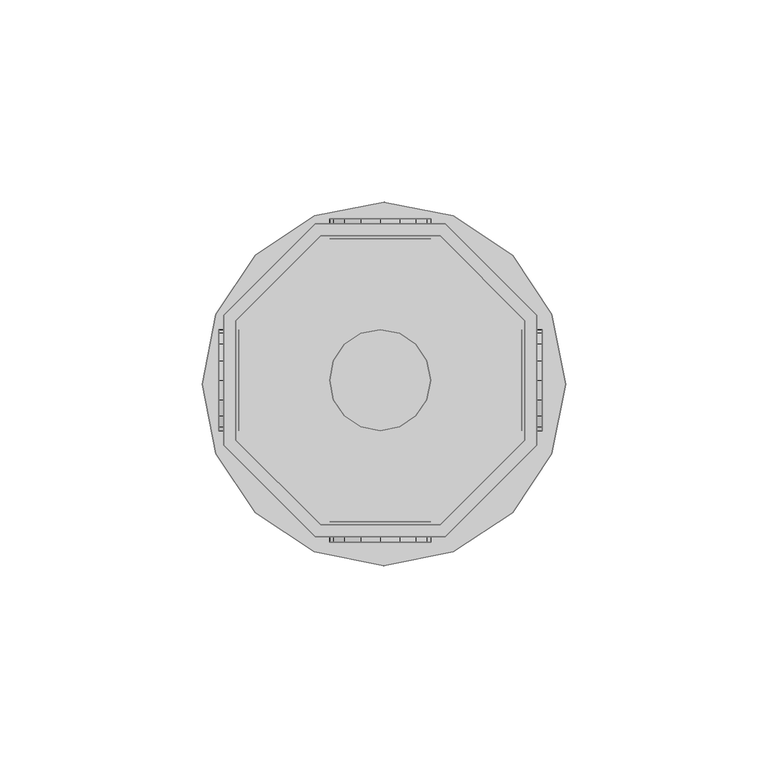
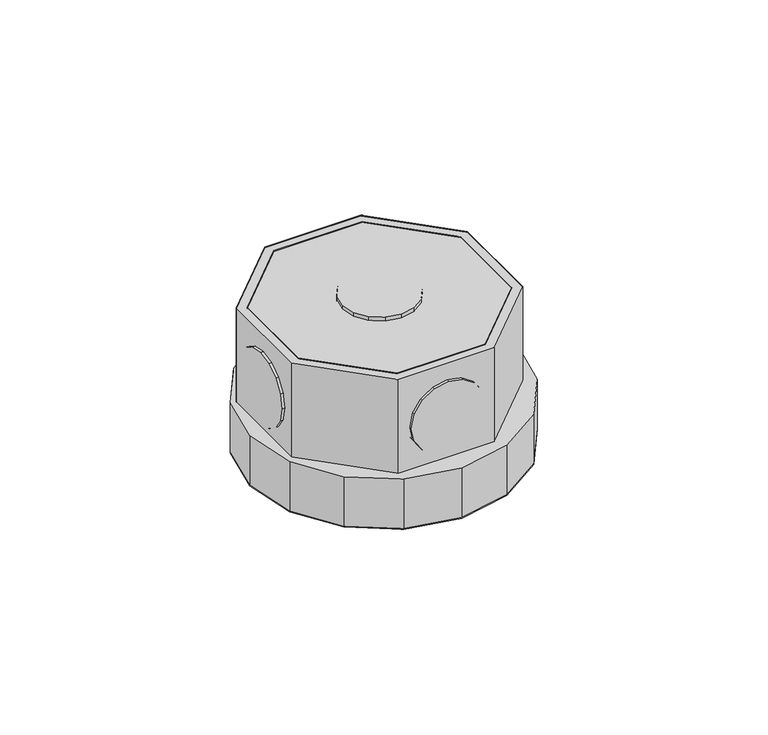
"""IFC4 building model written with IfcOpenShell, lengths in millimetres: light fixture geometry,  213226 :  213226."""

from ifc_helpers import new_model, si_unit, origin, place, context, project, spatial, triangles, source, transform, mapped, element, save


def light_fixture_38f33e88(model_context):
    return source(origin(), model_context, "Body", "Tessellation", [
        triangles([(24957.4998779, 18755.5005341, 2924.5999741), (24927.8993591, 18755.5005341, 2975.400071), (24927.8993591, 18755.5005341, 2924.5999741), (24957.4998779, 18755.5005341, 2975.400071), (24958.6998047, 18681.0004303, 2924.5999741), (24926.5994385, 18681.0004303, 2975.400071), (24926.5994385, 18681.0004303, 2924.5999741), (24958.6998047, 18681.0004303, 2975.400071), (24906.9006409, 18734.4994904, 2975.400071), (24906.9006409, 18734.4994904, 2924.5999741), (24981.4007446, 18703.7002075, 2924.5999741), (24981.4007446, 18703.7002075, 2975.400071), (24906.9006409, 18704.9001343, 2975.400071), (24906.9006409, 18704.9001343, 2924.5999741), (24981.4007446, 18735.8005737, 2924.5999741), (24981.4007446, 18735.8005737, 2975.400071), (24927.8993591, 18684.0002472, 2975.400071), (24927.8993591, 18684.0002472, 2924.5999741), (24958.6998047, 18758.500351, 2924.5999741), (24958.6998047, 18758.500351, 2975.400071), (24957.4998779, 18684.0002472, 2924.5999741), (24957.4998779, 18684.0002472, 2975.400071), (24926.5994385, 18758.500351, 2975.400071), (24926.5994385, 18758.500351, 2924.5999741), (24978.4009277, 18704.9001343, 2924.5999741), (24978.4009277, 18704.9001343, 2975.400071), (24903.900824, 18735.8005737, 2975.400071), (24903.900824, 18735.8005737, 2924.5999741), (24903.900824, 18703.7002075, 2975.400071), (24978.4009277, 18734.4994904, 2975.400071), (24978.4009277, 18734.4994904, 2924.5999741), (24903.900824, 18703.7002075, 2924.5999741), (24906.9006409, 18704.9001343, 2972.3999634), (24927.8993591, 18684.0002472, 2972.3999634), (24957.4998779, 18684.0002472, 2972.3999634), (24978.4009277, 18704.9001343, 2972.3999634), (24978.4009277, 18734.4994904, 2972.3999634), (24957.4998779, 18755.5005341, 2972.3999634), (24927.8993591, 18755.5005341, 2972.3999634), (24906.9006409, 18734.4994904, 2972.3999634), (24903.900824, 18735.8005737, 2942.4000504), (24926.5994385, 18758.500351, 2942.4000504), (24958.6998047, 18758.500351, 2942.4000504), (24981.4007446, 18735.8005737, 2942.4000504), (24981.4007446, 18703.7002075, 2942.4000504), (24958.6998047, 18681.0004303, 2942.4000504), (24926.5994385, 18681.0004303, 2942.4000504), (24903.900824, 18703.7002075, 2942.4000504), (24926.2994568, 18677.2994934, 2942.4000504), (24902.0009399, 18701.6003357, 2942.4000504), (24911.7003479, 18687.0000641, 2942.4000504), (24898.6011475, 18718.8004486, 2942.4000504), (24902.0009399, 18736.1005554, 2942.4000504), (24911.7003479, 18750.6996643, 2942.4000504), (24926.2994568, 18760.400235, 2942.4000504), (24943.6007263, 18763.8000275, 2942.4000504), (24960.7996765, 18760.400235, 2942.4000504), (24985.1005188, 18736.1005554, 2942.4000504), (24975.4011108, 18750.6996643, 2942.4000504), (24943.6007263, 18673.799707, 2942.4000504), (24960.7996765, 18677.2994934, 2942.4000504), (24975.4011108, 18687.0000641, 2942.4000504), (24985.1005188, 18701.6003357, 2942.4000504), (24988.6003052, 18718.8004486, 2942.4000504), (24902.0009399, 18701.6003357, 2924.5999741), (24926.2994568, 18677.2994934, 2924.5999741), (24911.7003479, 18687.0000641, 2924.5999741), (24898.6011475, 18718.8004486, 2924.5999741), (24902.0009399, 18736.1005554, 2924.5999741), (24911.7003479, 18750.6996643, 2924.5999741), (24926.2994568, 18760.400235, 2924.5999741), (24943.6007263, 18763.8000275, 2924.5999741), (24960.7996765, 18760.400235, 2924.5999741), (24985.1005188, 18736.1005554, 2924.5999741), (24975.4011108, 18750.6996643, 2924.5999741), (24943.6007263, 18673.799707, 2924.5999741), (24960.7996765, 18677.2994934, 2924.5999741), (24975.4011108, 18687.0000641, 2924.5999741), (24985.1005188, 18701.6003357, 2924.5999741), (24988.6003052, 18718.8004486, 2924.5999741), (24931.0991638, 18759.7002777, 2952.6000092), (24937.9010742, 18759.7002777, 2945.9001274), (24933.798999, 18759.7002777, 2948.5999626), (24930.1992188, 18759.7002777, 2957.4000069), (24942.7007813, 18759.7002777, 2944.8998978), (24931.0991638, 18759.7002777, 2962.2000046), (24947.5004883, 18759.7002777, 2945.9001274), (24933.798999, 18759.7002777, 2966.2000511), (24951.5002441, 18759.7002777, 2948.5999626), (24937.9010742, 18759.7002777, 2968.8998863), (24954.2000793, 18759.7002777, 2952.6000092), (24942.7007813, 18759.7002777, 2969.900116), (24955.2000183, 18759.7002777, 2957.4000069), (24947.5004883, 18759.7002777, 2968.8998863), (24954.2000793, 18759.7002777, 2962.2000046), (24951.5002441, 18759.7002777, 2966.2000511), (24937.9010742, 18754.6994202, 2945.9001274), (24931.0991638, 18754.6994202, 2952.6000092), (24933.798999, 18754.6994202, 2948.5999626), (24942.7007813, 18754.6994202, 2944.8998978), (24930.1992188, 18754.6994202, 2957.4000069), (24947.5004883, 18754.6994202, 2945.9001274), (24931.0991638, 18754.6994202, 2962.2000046), (24951.5002441, 18754.6994202, 2948.5999626), (24933.798999, 18754.6994202, 2966.2000511), (24937.9010742, 18754.6994202, 2968.8998863), (24954.2000793, 18754.6994202, 2952.6000092), (24942.7007813, 18754.6994202, 2969.900116), (24955.2000183, 18754.6994202, 2957.4000069), (24947.5004883, 18754.6994202, 2968.8998863), (24954.2000793, 18754.6994202, 2962.2000046), (24951.5002441, 18754.6994202, 2966.2000511), (24931.0991638, 18684.7002045, 2952.6000092), (24937.9010742, 18684.7002045, 2945.9001274), (24933.798999, 18684.7002045, 2948.5999626), (24930.1992188, 18684.7002045, 2957.4000069), (24942.7007813, 18684.7002045, 2944.8998978), (24931.0991638, 18684.7002045, 2962.2000046), (24947.5004883, 18684.7002045, 2945.9001274), (24933.798999, 18684.7002045, 2966.2000511), (24951.5002441, 18684.7002045, 2948.5999626), (24937.9010742, 18684.7002045, 2968.8998863), (24954.2000793, 18684.7002045, 2952.6000092), (24942.7007813, 18684.7002045, 2969.900116), (24955.2000183, 18684.7002045, 2957.4000069), (24947.5004883, 18684.7002045, 2968.8998863), (24954.2000793, 18684.7002045, 2962.2000046), (24951.5002441, 18684.7002045, 2966.2000511), (24937.9010742, 18679.7005096, 2945.9001274), (24931.0991638, 18679.7005096, 2952.6000092), (24933.798999, 18679.7005096, 2948.5999626), (24942.7007813, 18679.7005096, 2944.8998978), (24930.1992188, 18679.7005096, 2957.4000069), (24947.5004883, 18679.7005096, 2945.9001274), (24931.0991638, 18679.7005096, 2962.2000046), (24951.5002441, 18679.7005096, 2948.5999626), (24933.798999, 18679.7005096, 2966.2000511), (24937.9010742, 18679.7005096, 2968.8998863), (24954.2000793, 18679.7005096, 2952.6000092), (24942.7007813, 18679.7005096, 2969.900116), (24955.2000183, 18679.7005096, 2957.4000069), (24947.5004883, 18679.7005096, 2968.8998863), (24954.2000793, 18679.7005096, 2962.2000046), (24951.5002441, 18679.7005096, 2966.2000511), (24907.700592, 18714.8995239, 2945.9001274), (24907.700592, 18708.1999329, 2952.6000092), (24907.700592, 18710.8997681, 2948.5999626), (24907.700592, 18719.7003937, 2944.8998978), (24907.700592, 18707.1999939, 2957.4000069), (24907.700592, 18724.5001007, 2945.9001274), (24907.700592, 18708.1999329, 2962.2000046), (24907.700592, 18728.5998505, 2948.5999626), (24907.700592, 18710.8997681, 2966.2000511), (24907.700592, 18714.8995239, 2968.8998863), (24907.700592, 18731.2996857, 2952.6000092), (24907.700592, 18719.7003937, 2969.900116), (24907.700592, 18732.1996307, 2957.4000069), (24907.700592, 18724.5001007, 2968.8998863), (24907.700592, 18731.2996857, 2962.2000046), (24907.700592, 18728.5998505, 2966.2000511), (24902.7008972, 18708.1999329, 2952.6000092), (24902.7008972, 18714.8995239, 2945.9001274), (24902.7008972, 18710.8997681, 2948.5999626), (24902.7008972, 18707.1999939, 2957.4000069), (24902.7008972, 18719.7003937, 2944.8998978), (24902.7008972, 18708.1999329, 2962.2000046), (24902.7008972, 18724.5001007, 2945.9001274), (24902.7008972, 18710.8997681, 2966.2000511), (24902.7008972, 18728.5998505, 2948.5999626), (24902.7008972, 18714.8995239, 2968.8998863), (24902.7008972, 18731.2996857, 2952.6000092), (24902.7008972, 18719.7003937, 2969.900116), (24902.7008972, 18732.1996307, 2957.4000069), (24902.7008972, 18724.5001007, 2968.8998863), (24902.7008972, 18731.2996857, 2962.2000046), (24902.7008972, 18728.5998505, 2966.2000511), (24982.7006653, 18714.8995239, 2945.9001274), (24982.7006653, 18708.1999329, 2952.6000092), (24982.7006653, 18710.8997681, 2948.5999626), (24982.7006653, 18719.7003937, 2944.8998978), (24982.7006653, 18707.1999939, 2957.4000069), (24982.7006653, 18724.5001007, 2945.9001274), (24982.7006653, 18708.1999329, 2962.2000046), (24982.7006653, 18728.5998505, 2948.5999626), (24982.7006653, 18710.8997681, 2966.2000511), (24982.7006653, 18714.8995239, 2968.8998863), (24982.7006653, 18731.2996857, 2952.6000092), (24982.7006653, 18719.7003937, 2969.900116), (24982.7006653, 18732.1996307, 2957.4000069), (24982.7006653, 18724.5001007, 2968.8998863), (24982.7006653, 18731.2996857, 2962.2000046), (24982.7006653, 18728.5998505, 2966.2000511), (24977.7009705, 18708.1999329, 2952.6000092), (24977.7009705, 18714.8995239, 2945.9001274), (24977.7009705, 18710.8997681, 2948.5999626), (24977.7009705, 18707.1999939, 2957.4000069), (24977.7009705, 18719.7003937, 2944.8998978), (24977.7009705, 18708.1999329, 2962.2000046), (24977.7009705, 18724.5001007, 2945.9001274), (24977.7009705, 18710.8997681, 2966.2000511), (24977.7009705, 18728.5998505, 2948.5999626), (24977.7009705, 18714.8995239, 2968.8998863), (24977.7009705, 18731.2996857, 2952.6000092), (24977.7009705, 18719.7003937, 2969.900116), (24977.7009705, 18732.1996307, 2957.4000069), (24977.7009705, 18724.5001007, 2968.8998863), (24977.7009705, 18731.2996857, 2962.2000046), (24977.7009705, 18728.5998505, 2966.2000511), (24937.9010742, 18708.1999329, 2976.9999733), (24931.0991638, 18714.8995239, 2976.9999733), (24933.798999, 18710.8997681, 2976.9999733), (24930.1992188, 18719.7003937, 2976.9999733), (24942.7007813, 18707.1999939, 2976.9999733), (24931.0991638, 18724.5001007, 2976.9999733), (24947.5004883, 18708.1999329, 2976.9999733), (24933.798999, 18728.5998505, 2976.9999733), (24951.5002441, 18710.8997681, 2976.9999733), (24937.9010742, 18731.2996857, 2976.9999733), (24954.2000793, 18714.8995239, 2976.9999733), (24942.7007813, 18732.1996307, 2976.9999733), (24955.2000183, 18719.7003937, 2976.9999733), (24947.5004883, 18731.2996857, 2976.9999733), (24954.2000793, 18724.5001007, 2976.9999733), (24951.5002441, 18728.5998505, 2976.9999733), (24931.0991638, 18714.8995239, 2971.9999878), (24937.9010742, 18708.1999329, 2971.9999878), (24933.798999, 18710.8997681, 2971.9999878), (24930.1992188, 18719.7003937, 2971.9999878), (24942.7007813, 18707.1999939, 2971.9999878), (24931.0991638, 18724.5001007, 2971.9999878), (24947.5004883, 18708.1999329, 2971.9999878), (24933.798999, 18728.5998505, 2971.9999878), (24951.5002441, 18710.8997681, 2971.9999878), (24937.9010742, 18731.2996857, 2971.9999878), (24954.2000793, 18714.8995239, 2971.9999878), (24942.7007813, 18732.1996307, 2971.9999878), (24955.2000183, 18719.7003937, 2971.9999878), (24947.5004883, 18731.2996857, 2971.9999878), (24954.2000793, 18724.5001007, 2971.9999878), (24951.5002441, 18728.5998505, 2971.9999878)], [[1, 2, 3], [2, 1, 4], [5, 6, 7], [6, 5, 8], [3, 9, 10], [9, 3, 2], [11, 8, 5], [8, 11, 12], [10, 13, 14], [13, 10, 9], [15, 12, 11], [12, 15, 16], [14, 17, 18], [17, 14, 13], [19, 16, 15], [16, 19, 20], [17, 21, 18], [21, 17, 22], [23, 19, 24], [19, 23, 20], [22, 25, 21], [25, 22, 26], [27, 24, 28], [24, 27, 23], [6, 13, 29], [29, 13, 27], [27, 13, 9], [27, 9, 23], [23, 9, 2], [23, 2, 4], [23, 4, 20], [20, 4, 30], [8, 17, 6], [6, 17, 13], [17, 8, 22], [12, 22, 8], [22, 12, 26], [30, 26, 12], [16, 30, 12], [20, 30, 16], [30, 1, 31], [1, 30, 4], [6, 32, 7], [32, 6, 29], [32, 14, 7], [28, 14, 32], [14, 28, 10], [24, 10, 28], [10, 24, 3], [1, 3, 24], [19, 1, 24], [31, 1, 19], [7, 18, 5], [14, 18, 7], [5, 18, 21], [5, 21, 11], [11, 21, 25], [11, 25, 31], [11, 31, 15], [15, 31, 19], [26, 31, 25], [31, 26, 30], [29, 28, 32], [28, 29, 27], [17, 33, 34], [33, 17, 13], [35, 17, 34], [17, 35, 22], [36, 22, 35], [22, 36, 26], [37, 26, 36], [26, 37, 30], [38, 30, 37], [30, 38, 4], [2, 38, 39], [38, 2, 4], [17, 9, 13], [9, 17, 22], [9, 22, 2], [2, 22, 26], [2, 26, 4], [4, 26, 30], [13, 40, 33], [40, 13, 9], [40, 34, 33], [35, 34, 40], [35, 40, 39], [35, 39, 36], [36, 39, 38], [36, 38, 37], [9, 39, 40], [39, 9, 2], [24, 41, 28], [41, 24, 42], [19, 42, 24], [42, 19, 43], [44, 19, 15], [19, 44, 43], [45, 15, 11], [15, 45, 44], [46, 11, 5], [11, 46, 45], [47, 5, 7], [5, 47, 46], [32, 47, 7], [47, 32, 48], [28, 48, 32], [48, 28, 41], [49, 50, 51], [48, 50, 49], [50, 48, 52], [41, 52, 48], [52, 41, 53], [53, 41, 54], [42, 54, 41], [54, 42, 55], [55, 42, 43], [55, 43, 56], [56, 43, 57], [57, 43, 44], [57, 44, 58], [57, 58, 59], [47, 49, 60], [49, 47, 48], [47, 60, 46], [61, 46, 60], [46, 61, 62], [46, 62, 45], [45, 62, 63], [44, 45, 63], [44, 63, 64], [44, 64, 58], [65, 66, 67], [66, 65, 32], [68, 32, 65], [32, 68, 28], [28, 68, 69], [70, 28, 69], [28, 70, 24], [71, 24, 70], [19, 24, 71], [19, 71, 72], [73, 19, 72], [19, 73, 15], [74, 15, 73], [74, 73, 75], [76, 66, 7], [32, 7, 66], [5, 76, 7], [76, 5, 77], [77, 5, 78], [11, 78, 5], [78, 11, 79], [79, 11, 15], [79, 15, 80], [80, 15, 74], [57, 75, 73], [75, 57, 59], [56, 73, 72], [73, 56, 57], [55, 72, 71], [72, 55, 56], [54, 71, 70], [71, 54, 55], [53, 70, 69], [70, 53, 54], [52, 69, 68], [69, 52, 53], [50, 68, 65], [68, 50, 52], [51, 65, 67], [65, 51, 50], [66, 51, 67], [51, 66, 49], [76, 49, 66], [49, 76, 60], [77, 60, 76], [60, 77, 61], [78, 61, 77], [61, 78, 62], [79, 62, 78], [62, 79, 63], [80, 63, 79], [63, 80, 64], [75, 58, 74], [58, 75, 59], [74, 64, 80], [64, 74, 58], [81, 82, 83], [82, 81, 84], [85, 82, 84], [85, 84, 86], [87, 85, 86], [87, 86, 88], [87, 88, 89], [89, 88, 90], [89, 90, 91], [91, 90, 92], [91, 92, 93], [93, 92, 94], [93, 94, 95], [95, 94, 96], [97, 98, 99], [98, 97, 100], [101, 98, 100], [101, 100, 102], [103, 101, 102], [103, 102, 104], [103, 104, 105], [105, 104, 106], [106, 104, 107], [106, 107, 108], [108, 107, 109], [108, 109, 110], [110, 109, 111], [110, 111, 112], [87, 104, 102], [104, 87, 89], [85, 102, 100], [102, 85, 87], [82, 100, 97], [100, 82, 85], [83, 97, 99], [97, 83, 82], [98, 83, 99], [83, 98, 81], [101, 81, 98], [81, 101, 84], [103, 84, 101], [84, 103, 86], [105, 86, 103], [86, 105, 88], [106, 88, 105], [88, 106, 90], [108, 90, 106], [90, 108, 92], [110, 92, 108], [92, 110, 94], [112, 94, 110], [94, 112, 96], [95, 112, 111], [112, 95, 96], [93, 111, 109], [111, 93, 95], [89, 107, 104], [107, 89, 91], [91, 109, 107], [109, 91, 93], [113, 114, 115], [114, 113, 116], [117, 114, 116], [117, 116, 118], [119, 117, 118], [119, 118, 120], [119, 120, 121], [121, 120, 122], [121, 122, 123], [123, 122, 124], [123, 124, 125], [125, 124, 126], [125, 126, 127], [127, 126, 128], [129, 130, 131], [130, 129, 132], [133, 130, 132], [133, 132, 134], [135, 133, 134], [135, 134, 136], [135, 136, 137], [137, 136, 138], [138, 136, 139], [138, 139, 140], [140, 139, 141], [140, 141, 142], [142, 141, 143], [142, 143, 144], [119, 136, 134], [136, 119, 121], [117, 134, 132], [134, 117, 119], [114, 132, 129], [132, 114, 117], [115, 129, 131], [129, 115, 114], [130, 115, 131], [115, 130, 113], [133, 113, 130], [113, 133, 116], [135, 116, 133], [116, 135, 118], [137, 118, 135], [118, 137, 120], [138, 120, 137], [120, 138, 122], [140, 122, 138], [122, 140, 124], [142, 124, 140], [124, 142, 126], [144, 126, 142], [126, 144, 128], [127, 144, 143], [144, 127, 128], [125, 143, 141], [143, 125, 127], [121, 139, 136], [139, 121, 123], [123, 141, 139], [141, 123, 125], [145, 146, 147], [146, 145, 148], [149, 146, 148], [149, 148, 150], [151, 149, 150], [151, 150, 152], [151, 152, 153], [153, 152, 154], [154, 152, 155], [154, 155, 156], [156, 155, 157], [156, 157, 158], [158, 157, 159], [158, 159, 160], [161, 162, 163], [162, 161, 164], [165, 162, 164], [165, 164, 166], [167, 165, 166], [167, 166, 168], [169, 167, 168], [169, 168, 170], [169, 170, 171], [171, 170, 172], [171, 172, 173], [173, 172, 174], [173, 174, 175], [175, 174, 176], [158, 176, 174], [176, 158, 160], [156, 174, 172], [174, 156, 158], [154, 172, 170], [172, 154, 156], [153, 170, 168], [170, 153, 154], [151, 168, 166], [168, 151, 153], [149, 166, 164], [166, 149, 151], [146, 164, 161], [164, 146, 149], [147, 161, 163], [161, 147, 146], [162, 147, 163], [147, 162, 145], [165, 145, 162], [145, 165, 148], [167, 148, 165], [148, 167, 150], [169, 150, 167], [150, 169, 152], [171, 152, 169], [152, 171, 155], [173, 155, 171], [155, 173, 157], [176, 159, 175], [159, 176, 160], [175, 157, 173], [157, 175, 159], [177, 178, 179], [178, 177, 180], [181, 178, 180], [181, 180, 182], [183, 181, 182], [183, 182, 184], [183, 184, 185], [185, 184, 186], [186, 184, 187], [186, 187, 188], [188, 187, 189], [188, 189, 190], [190, 189, 191], [190, 191, 192], [193, 194, 195], [194, 193, 196], [197, 194, 196], [197, 196, 198], [199, 197, 198], [199, 198, 200], [201, 199, 200], [201, 200, 202], [201, 202, 203], [203, 202, 204], [203, 204, 205], [205, 204, 206], [205, 206, 207], [207, 206, 208], [190, 208, 206], [208, 190, 192], [188, 206, 204], [206, 188, 190], [186, 204, 202], [204, 186, 188], [185, 202, 200], [202, 185, 186], [183, 200, 198], [200, 183, 185], [181, 198, 196], [198, 181, 183], [178, 196, 193], [196, 178, 181], [179, 193, 195], [193, 179, 178], [194, 179, 195], [179, 194, 177], [197, 177, 194], [177, 197, 180], [199, 180, 197], [180, 199, 182], [201, 182, 199], [182, 201, 184], [203, 184, 201], [184, 203, 187], [205, 187, 203], [187, 205, 189], [208, 191, 207], [191, 208, 192], [207, 189, 205], [189, 207, 191], [209, 210, 211], [212, 210, 209], [212, 209, 213], [214, 212, 213], [214, 213, 215], [216, 214, 215], [216, 215, 217], [216, 217, 218], [218, 217, 219], [218, 219, 220], [220, 219, 221], [220, 221, 222], [222, 221, 223], [222, 223, 224], [225, 226, 227], [226, 225, 228], [229, 226, 228], [229, 228, 230], [231, 229, 230], [231, 230, 232], [231, 232, 233], [233, 232, 234], [233, 234, 235], [235, 234, 236], [235, 236, 237], [237, 236, 238], [237, 238, 239], [239, 238, 240], [222, 240, 238], [240, 222, 224], [220, 238, 236], [238, 220, 222], [218, 236, 234], [236, 218, 220], [216, 234, 232], [234, 216, 218], [214, 232, 230], [232, 214, 216], [212, 230, 228], [230, 212, 214], [210, 228, 225], [228, 210, 212], [211, 225, 227], [225, 211, 210], [226, 211, 227], [211, 226, 209], [229, 209, 226], [209, 229, 213], [231, 213, 229], [213, 231, 215], [233, 215, 231], [215, 233, 217], [235, 217, 233], [217, 235, 219], [237, 219, 235], [219, 237, 221], [240, 223, 239], [223, 240, 224], [239, 221, 237], [221, 239, 223]], closed=False),
    ])


if __name__ == "__main__":
    model = new_model("IFC4")
    model_context = context("Model", 3, world=origin())
    ifc_project = project(units=[si_unit("LENGTHUNIT", "METRE", prefix="MILLI")], contexts=[model_context])
    site = spatial("IfcSite", under=ifc_project)
    building = spatial("IfcBuilding", under=site)
    placement = place(None, origin())
    light_fixture_shape = light_fixture_38f33e88(model_context)
    element("IfcLightFixture", 1, ObjectType=" 213226 :  213226", at=placement, inside=building, context=model_context, shape_type="MappedRepresentation", body=[
        mapped(light_fixture_shape, transform((0.0, 0.0, 0.0), x_axis=(1.0, 0.0, 0.0), y_axis=(0.0, 1.0, 0.0), z_axis=(0.0, 0.0, 1.0))),
    ])
    save(model, "model.ifc")
